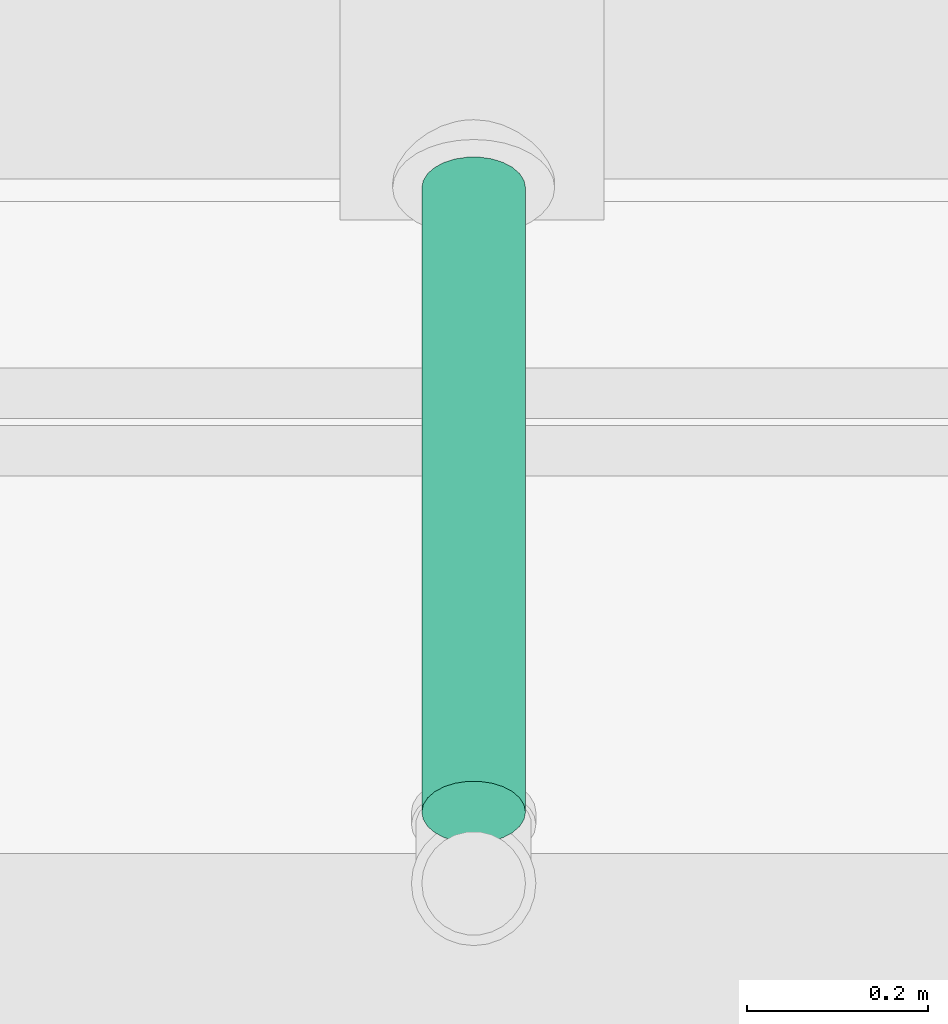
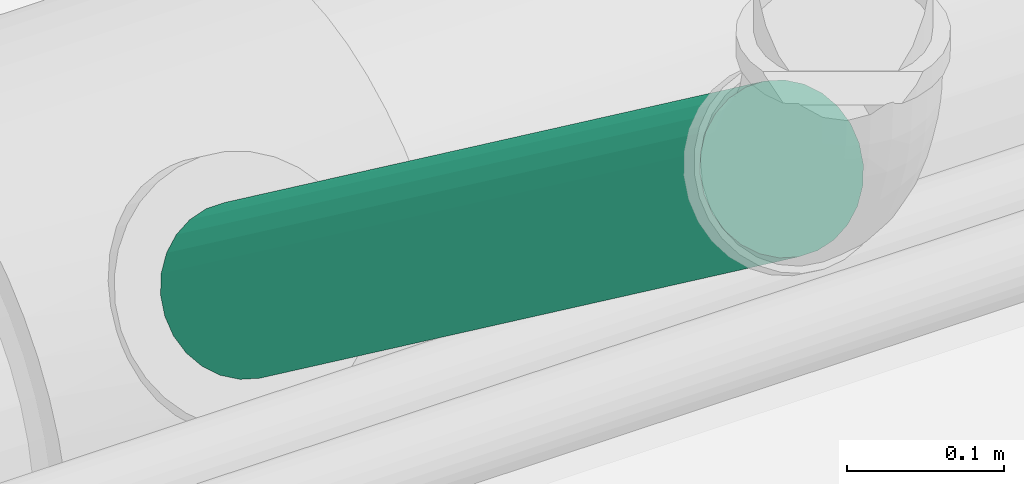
# One storey, part 43 of 108: 1 pipe segment.
"""IFC4 building model written with IfcOpenShell, lengths in feet."""

from ifc_helpers import new_model, entity, si_unit, converted_unit, derived_unit, direction, frame, origin, origin_2d_with_axis, place, context, subcontext, project, spatial, circle, extrude, type_object, element, save


model = new_model("IFC4")

# Units and contexts
model_context = context("Model", 3, precision=0.0001, world=origin(), true_north=direction((6.12303176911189e-17, 1.0)))
body_context = subcontext(model_context, "Body", "Model", "MODEL_VIEW")
ifc_project = project(units=[converted_unit("LENGTHUNIT", "FOOT", entity("IfcRatioMeasure", 0.3048), si_unit("LENGTHUNIT", "METRE"), dimensions=[1, 0, 0, 0, 0, 0, 0]), converted_unit("AREAUNIT", "SQUARE FOOT", entity("IfcRatioMeasure", 0.09290304), si_unit("AREAUNIT", "SQUARE_METRE"), dimensions=[2, 0, 0, 0, 0, 0, 0]), converted_unit("VOLUMEUNIT", "CUBIC FOOT", entity("IfcRatioMeasure", 0.028316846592), si_unit("VOLUMEUNIT", "CUBIC_METRE"), dimensions=[3, 0, 0, 0, 0, 0, 0]), converted_unit("PLANEANGLEUNIT", "DEGREE", entity("IfcRatioMeasure", 0.0174532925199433), si_unit("PLANEANGLEUNIT", "RADIAN"), dimensions=[0, 0, 0, 0, 0, 0, 0]), si_unit("MASSUNIT", "GRAM", prefix="KILO"), derived_unit("MASSDENSITYUNIT", [(si_unit("MASSUNIT", "GRAM", prefix="KILO"), 1), (si_unit("LENGTHUNIT", "METRE"), -3)]), si_unit("TIMEUNIT", "SECOND"), si_unit("FREQUENCYUNIT", "HERTZ"), si_unit("THERMODYNAMICTEMPERATUREUNIT", "DEGREE_CELSIUS"), derived_unit("THERMALTRANSMITTANCEUNIT", [(si_unit("MASSUNIT", "GRAM", prefix="KILO"), 1), (si_unit("THERMODYNAMICTEMPERATUREUNIT", "KELVIN"), -1), (si_unit("TIMEUNIT", "SECOND"), -3)]), derived_unit("VOLUMETRICFLOWRATEUNIT", [(si_unit("LENGTHUNIT", "METRE"), 3), (si_unit("TIMEUNIT", "SECOND"), -1)]), si_unit("ELECTRICCURRENTUNIT", "AMPERE"), si_unit("ELECTRICVOLTAGEUNIT", "VOLT"), si_unit("POWERUNIT", "WATT"), si_unit("FORCEUNIT", "NEWTON"), si_unit("ILLUMINANCEUNIT", "LUX"), si_unit("LUMINOUSFLUXUNIT", "LUMEN"), si_unit("LUMINOUSINTENSITYUNIT", "CANDELA"), derived_unit("USERDEFINED", [(si_unit("MASSUNIT", "GRAM", prefix="KILO"), -1), (si_unit("LENGTHUNIT", "METRE"), -2), (si_unit("TIMEUNIT", "SECOND"), 3), (si_unit("LUMINOUSFLUXUNIT", "LUMEN"), 1)]), derived_unit("LINEARVELOCITYUNIT", [(si_unit("LENGTHUNIT", "METRE"), 1), (si_unit("TIMEUNIT", "SECOND"), -1)]), si_unit("PRESSUREUNIT", "PASCAL"), derived_unit("USERDEFINED", [(si_unit("LENGTHUNIT", "METRE"), -2), (si_unit("MASSUNIT", "GRAM", prefix="KILO"), 1), (si_unit("TIMEUNIT", "SECOND"), -2)])], contexts=[model_context])

# Site, building, storey
site_placement = place(None, origin())
site = spatial("IfcSite", under=ifc_project, at=site_placement, Name="Default", CompositionType="ELEMENT")
building_placement = place(site_placement, origin())
building = spatial("IfcBuilding", under=site, at=building_placement, CompositionType="ELEMENT")
storey_placement = place(building_placement, frame((0.0, 0.0, 168.0)))
storey = spatial("IfcBuildingStorey", under=building, at=storey_placement, Name="Level 15", CompositionType="ELEMENT", Elevation=168.0)

# Pipe segment
pipe_segment_type = type_object("IfcPipeSegmentType", Name="Pipe Types:Hydronic", PredefinedType="NOTDEFINED")
pipe_segment_placement = place(storey_placement, frame((-19.7538936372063, -19.6877607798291, 9.59643508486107)))
element("IfcPipeSegment", 1, at=pipe_segment_placement, inside=storey, type_object=pipe_segment_type, Name="Pipe Types:Hydronic", ObjectType="Pipe Types:Hydronic", PredefinedType="NOTDEFINED", context=body_context, shape_type="SweptSolid", body=[
    extrude(circle(Radius=0.1875, at=origin_2d_with_axis()), frame((0.192733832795, 2.374537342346, 0.155678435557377), z_axis=(0.0, -0.802371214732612, 0.596825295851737), x_axis=(-1.0, 0.0, 0.0)), (0.0, 0.0, 1.0), 2.81340946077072),
])

save(model, "model.ifc")
